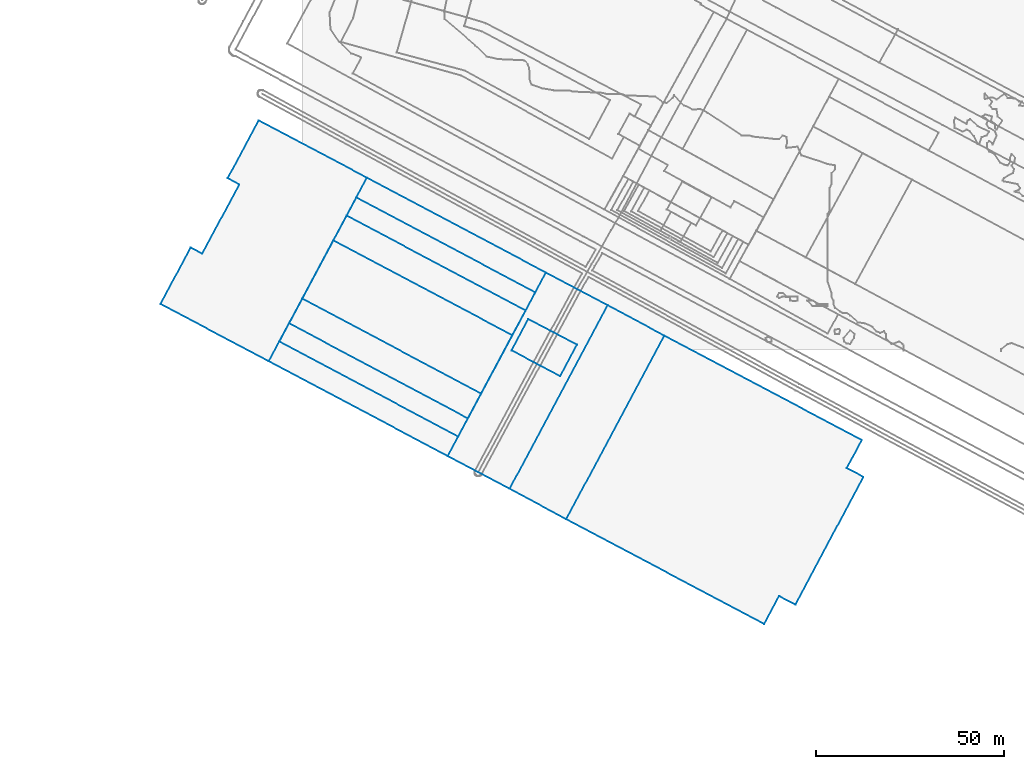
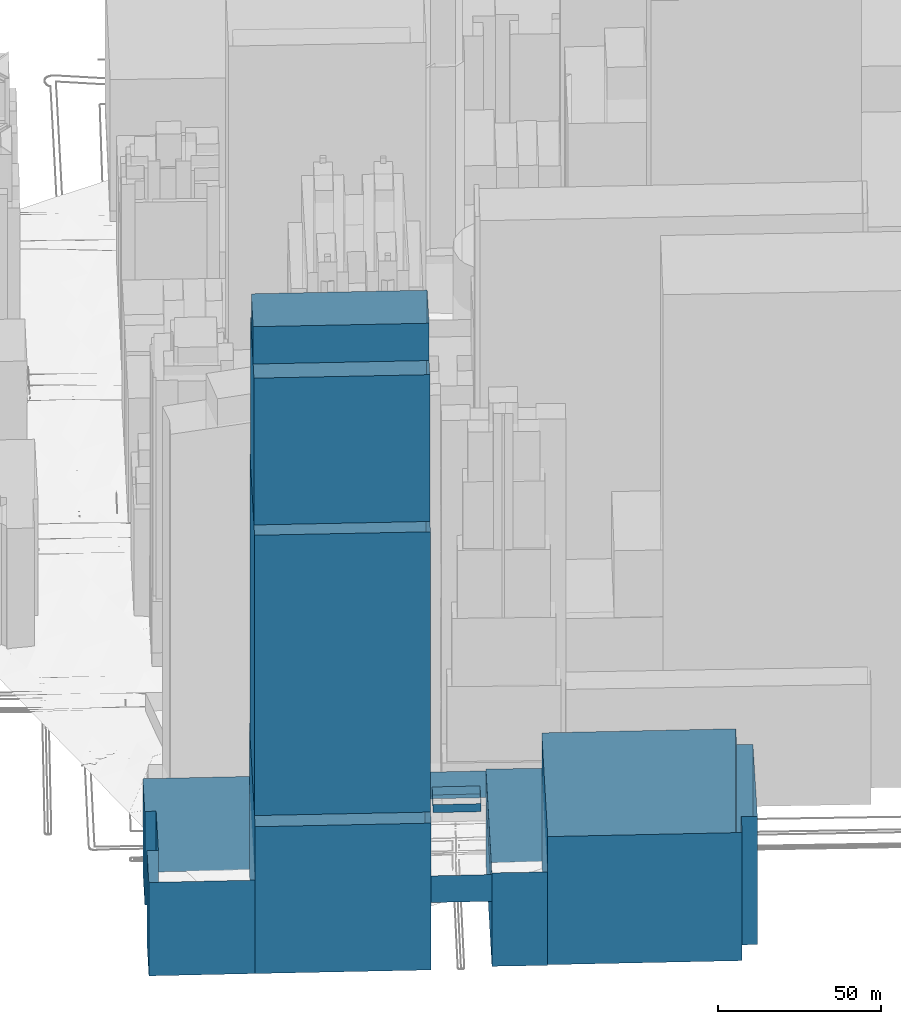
# Not in any storey, part 15 of 80: 9 walls.
"""IFC4 building model written with IfcOpenShell, lengths in metres."""

from ifc_helpers import new_model, si_unit, frame, origin_with_axes, place, context, subcontext, project, spatial, polygons, element, save


model = new_model("IFC4")

# Units and contexts
model_context = context("Model", 3, precision=1e-05, world=origin_with_axes())
body_context = subcontext(model_context, "Body", "Model", "MODEL_VIEW")
ifc_project = project(units=[si_unit("AREAUNIT", "SQUARE_METRE"), si_unit("LENGTHUNIT", "METRE")], contexts=[model_context])

# Sites, building
site_1_placement = place(None, origin_with_axes())
site_1 = spatial("IfcSite", under=ifc_project, at=site_1_placement, Name="Topoexport Site")
site_2_placement = place(site_1_placement, origin_with_axes())
site_2 = spatial("IfcSite", under=site_1, at=site_2_placement, Name="TPX_BATIMENTS")
building_1_placement = place(site_2_placement, frame((70.4319082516, -45.3124381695, 19.6413035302), z_axis=(0.0, 0.0, 1.0), x_axis=(1.0, 0.0, 0.0)))
building_1 = spatial("IfcBuilding", under=site_2, at=building_1_placement, Name="Batiment 153", CompositionType="ELEMENT")

# Wall
wall_1_placement = place(None, frame((70.4319082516, -45.3124381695, 19.6413035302), z_axis=(0.0, 0.0, 1.0), x_axis=(1.0, 0.0, 0.0)))
element("IfcWall", 1, at=wall_1_placement, inside=building_1, Name="Mur 0", context=body_context, shape_type="Tessellation", body=[
    polygons([(0.0, 0.0, 0.0), (52.7563009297, -27.9312178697, 0.0), (56.721804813, -20.4799520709, 0.0), (61.1215341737, -22.7936176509, 0.0), (79.2214604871, 11.2896457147, 0.0), (74.804734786, 13.6142050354, 0.0), (78.7949988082, 21.1101810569, 0.0), (26.1498243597, 48.9425792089, 0.0), (0.0, 0.0, 48.0), (52.7563009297, -27.9312178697, 48.0), (56.721804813, -20.4799520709, 48.0), (61.1215341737, -22.7936176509, 48.0), (79.2214604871, 11.2896457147, 48.0), (74.804734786, 13.6142050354, 48.0), (78.7949988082, 21.1101810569, 48.0), (26.1498243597, 48.9425792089, 48.0)], [[[10, 9, 2]], [[2, 9, 1]], [[11, 10, 3]], [[3, 10, 2]], [[12, 11, 4]], [[4, 11, 3]], [[13, 12, 5]], [[5, 12, 4]], [[14, 13, 6]], [[6, 13, 5]], [[15, 14, 7]], [[7, 14, 6]], [[9, 16, 1]], [[1, 16, 8]], [[16, 15, 8]], [[8, 15, 7]]]),
])

# Building
building_2_placement = place(site_2_placement, frame((-37.764592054, 12.0631870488, 18.5499973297), z_axis=(0.0, 0.0, 1.0), x_axis=(1.0, 0.0, 0.0)))
building_2 = spatial("IfcBuilding", under=site_2, at=building_2_placement, Name="Batiment 198", CompositionType="ELEMENT")

# Wall
wall_2_placement = place(None, frame((-37.764592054, 12.0631870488, 18.5499973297), z_axis=(0.0, 0.0, 1.0), x_axis=(1.0, 0.0, 0.0)))
element("IfcWall", 2, at=wall_2_placement, inside=building_2, Name="Mur 0", context=body_context, shape_type="Tessellation", body=[
    polygons([(0.0, 0.0, 0.0), (28.8870060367, -15.2414440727, 0.0), (55.0371870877, 33.7008524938, 0.0), (26.1587518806, 48.9422915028, 0.0), (17.9295410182, 33.536852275, 0.0), (21.0212047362, 31.907372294, 0.0), (11.1393837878, 13.4185558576, 0.0), (8.0475860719, 15.0591407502, 0.0), (0.0, 0.0, 35.0), (28.8870060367, -15.2414440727, 35.0), (55.0371870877, 33.7008524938, 35.0), (26.1587518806, 48.9422915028, 35.0), (17.9295410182, 33.536852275, 35.0), (21.0212047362, 31.907372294, 35.0), (11.1393837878, 13.4185558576, 35.0), (8.0475860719, 15.0591407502, 35.0)], [[[10, 9, 2]], [[2, 9, 1]], [[11, 10, 3]], [[3, 10, 2]], [[12, 11, 4]], [[4, 11, 3]], [[13, 12, 5]], [[5, 12, 4]], [[14, 13, 6]], [[6, 13, 5]], [[15, 14, 7]], [[7, 14, 6]], [[9, 16, 1]], [[1, 16, 8]], [[16, 15, 8]], [[8, 15, 7]]]),
])

# Building
building_3_placement = place(site_2_placement, frame((0.0457305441, 13.5231043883, 233.5817263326), z_axis=(0.0, 0.0, 1.0), x_axis=(1.0, 0.0, 0.0)))
building_3 = spatial("IfcBuilding", under=site_2, at=building_3_placement, Name="Batiment 218", CompositionType="ELEMENT")

# Wall
wall_3_placement = place(None, frame((0.0457305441, 13.5231043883, 233.5817263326), z_axis=(0.0, 0.0, 1.0), x_axis=(1.0, 0.0, 0.0)))
element("IfcWall", 3, at=wall_3_placement, inside=building_3, Name="Mur 0", context=body_context, shape_type="Tessellation", body=[
    polygons([(0.0, 0.0, 0.0), (47.6860402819, -25.3593207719, 0.0), (56.0060946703, -9.7862176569, 0.0), (8.2954448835, 15.5172515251, 0.0), (0.0, 0.0, 14.0), (47.6860402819, -25.3593207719, 14.0), (56.0060946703, -9.7862176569, 14.0), (8.2954448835, 15.5172515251, 14.0)], [[[6, 5, 2]], [[2, 5, 1]], [[7, 6, 3]], [[3, 6, 2]], [[5, 8, 1]], [[1, 8, 4]], [[8, 7, 4]], [[4, 7, 3]]]),
])

# Building
building_4_placement = place(site_2_placement, frame((-3.482289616, 6.9207531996, 178.5499973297), z_axis=(0.0, 0.0, 1.0), x_axis=(1.0, 0.0, 0.0)))
building_4 = spatial("IfcBuilding", under=site_2, at=building_4_placement, Name="Batiment 219", CompositionType="ELEMENT")

# Wall
wall_4_placement = place(None, frame((-3.482289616, 6.9207531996, 178.5499973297), z_axis=(0.0, 0.0, 1.0), x_axis=(1.0, 0.0, 0.0)))
element("IfcWall", 4, at=wall_4_placement, inside=building_4, Name="Mur 0", context=body_context, shape_type="Tessellation", body=[
    polygons([(0.0, 0.0, 0.0), (47.6860692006, -25.359343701, 0.0), (63.0622131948, 3.4074130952, 0.0), (15.3430229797, 28.7218621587, 0.0), (0.0, 0.0, 55.0), (47.6860692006, -25.359343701, 55.0), (63.0622131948, 3.4074130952, 55.0), (15.3430229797, 28.7218621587, 55.0)], [[[6, 5, 2]], [[2, 5, 1]], [[7, 6, 3]], [[3, 6, 2]], [[5, 8, 1]], [[1, 8, 4]], [[8, 7, 4]], [[4, 7, 3]]]),
])

# Building
building_5_placement = place(site_2_placement, frame((-6.0684346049, 2.0834835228, 73.5499973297), z_axis=(0.0, 0.0, 1.0), x_axis=(1.0, 0.0, 0.0)))
building_5 = spatial("IfcBuilding", under=site_2, at=building_5_placement, Name="Batiment 220", CompositionType="ELEMENT")

# Wall
wall_5_placement = place(None, frame((-6.0684346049, 2.0834835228, 73.5499973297), z_axis=(0.0, 0.0, 1.0), x_axis=(1.0, 0.0, 0.0)))
element("IfcWall", 5, at=wall_5_placement, inside=building_5, Name="Mur 0", context=body_context, shape_type="Tessellation", body=[
    polygons([(0.0, 0.0, 0.0), (47.6862192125, -25.3704612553, 0.0), (68.234328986, 13.0930768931, 0.0), (20.5236005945, 38.4076070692, 0.0), (0.0, 0.0, 105.0), (47.6862192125, -25.3704612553, 105.0), (68.234328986, 13.0930768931, 105.0), (20.5236005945, 38.4076070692, 105.0)], [[[6, 5, 2]], [[2, 5, 1]], [[7, 6, 3]], [[3, 6, 2]], [[5, 8, 1]], [[1, 8, 4]], [[8, 7, 4]], [[4, 7, 3]]]),
])

# Building
building_6_placement = place(site_2_placement, frame((-8.8775860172, -3.1782570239, 18.5499973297), z_axis=(0.0, 0.0, 1.0), x_axis=(1.0, 0.0, 0.0)))
building_6 = spatial("IfcBuilding", under=site_2, at=building_6_placement, Name="Batiment 221", CompositionType="ELEMENT")

# Wall
wall_6_placement = place(None, frame((-8.8775860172, -3.1782570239, 18.5499973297), z_axis=(0.0, 0.0, 1.0), x_axis=(1.0, 0.0, 0.0)))
element("IfcWall", 6, at=wall_6_placement, inside=building_6, Name="Mur 0", context=body_context, shape_type="Tessellation", body=[
    polygons([(0.0, 0.0, 0.0), (47.7107911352, -25.3035811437, 0.0), (73.869197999, 23.6389834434, 0.0), (26.150181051, 48.9422965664, 0.0), (0.0, 0.0, 55.0), (47.7107911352, -25.3035811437, 55.0), (73.869197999, 23.6389834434, 55.0), (26.150181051, 48.9422965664, 55.0)], [[[6, 5, 2]], [[2, 5, 1]], [[7, 6, 3]], [[3, 6, 2]], [[5, 8, 1]], [[1, 8, 4]], [[8, 7, 4]], [[4, 7, 3]]]),
])

# Building
building_7_placement = place(site_2_placement, frame((55.3366535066, -37.1942935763, 19.4063848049), z_axis=(0.0, 0.0, 1.0), x_axis=(1.0, 0.0, 0.0)))
building_7 = spatial("IfcBuilding", under=site_2, at=building_7_placement, Name="Batiment 222", CompositionType="ELEMENT")

# Wall
wall_7_placement = place(None, frame((55.3366535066, -37.1942935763, 19.4063848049), z_axis=(0.0, 0.0, 1.0), x_axis=(1.0, 0.0, 0.0)))
element("IfcWall", 7, at=wall_7_placement, inside=building_7, Name="Mur 0", context=body_context, shape_type="Tessellation", body=[
    polygons([(0.0, 0.0, 0.0), (15.095254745, -8.1181445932, 0.0), (41.2450791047, 40.8244346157, 0.0), (26.1500207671, 48.9314246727, 0.0), (0.0, 0.0, 35.0), (15.095254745, -8.1181445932, 35.0), (41.2450791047, 40.8244346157, 35.0), (26.1500207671, 48.9314246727, 35.0)], [[[6, 5, 2]], [[2, 5, 1]], [[7, 6, 3]], [[3, 6, 2]], [[5, 8, 1]], [[1, 8, 4]], [[8, 7, 4]], [[4, 7, 3]]]),
])

# Building
building_8_placement = place(site_2_placement, frame((55.8285008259, -0.2958209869, 54.4127792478), z_axis=(0.0, 0.0, 1.0), x_axis=(1.0, 0.0, 0.0)))
building_8 = spatial("IfcBuilding", under=site_2, at=building_8_placement, Name="Batiment 223", CompositionType="ELEMENT")

# Wall
wall_8_placement = place(None, frame((55.8285008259, -0.2958209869, 54.4127792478), z_axis=(0.0, 0.0, 1.0), x_axis=(1.0, 0.0, 0.0)))
element("IfcWall", 8, at=wall_8_placement, inside=building_8, Name="Mur 0", context=body_context, shape_type="Tessellation", body=[
    polygons([(0.0, 0.0, 0.0), (13.0041051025, -6.8767632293, 0.0), (17.4570509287, 1.4905172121, 0.0), (4.453084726, 8.356171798, 0.0), (0.0, 0.0, 3.0), (13.0041051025, -6.8767632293, 3.0), (17.4570509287, 1.4905172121, 3.0), (4.453084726, 8.356171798, 3.0)], [[[6, 5, 2]], [[2, 5, 1]], [[7, 6, 3]], [[3, 6, 2]], [[5, 8, 1]], [[1, 8, 4]], [[8, 7, 4]], [[4, 7, 3]]]),
])

# Building
building_9_placement = place(site_2_placement, frame((38.833205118, -28.4818381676, 43.7777920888), z_axis=(0.0, 0.0, 1.0), x_axis=(1.0, 0.0, 0.0)))
building_9 = spatial("IfcBuilding", under=site_2, at=building_9_placement, Name="Batiment 224", CompositionType="ELEMENT")

# Wall
wall_9_placement = place(None, frame((38.833205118, -28.4818381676, 43.7777920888), z_axis=(0.0, 0.0, 1.0), x_axis=(1.0, 0.0, 0.0)))
element("IfcWall", 9, at=wall_9_placement, inside=building_9, Name="Mur 0", context=body_context, shape_type="Tessellation", body=[
    polygons([(0.0, 0.0, 0.0), (16.5034483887, -8.7124554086, 0.0), (42.6534691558, 40.2189692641, 0.0), (26.1584068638, 48.9425645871, 0.0), (0.0, 0.0, 10.0), (16.5034483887, -8.7124554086, 10.0), (42.6534691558, 40.2189692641, 10.0), (26.1584068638, 48.9425645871, 10.0)], [[[6, 5, 2]], [[2, 5, 1]], [[7, 6, 3]], [[3, 6, 2]], [[5, 8, 1]], [[1, 8, 4]], [[8, 7, 4]], [[4, 7, 3]]]),
])

save(model, "model.ifc")
